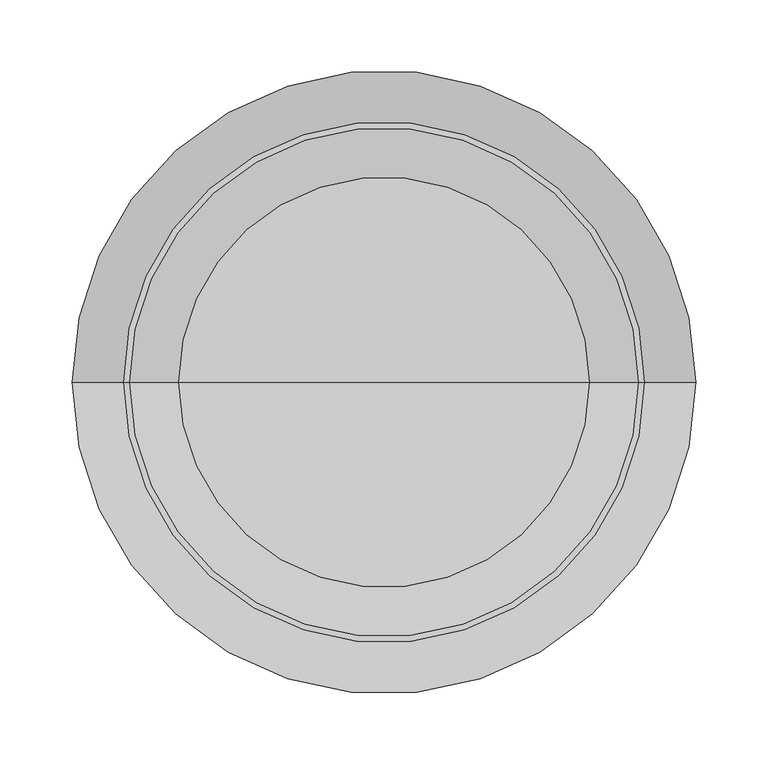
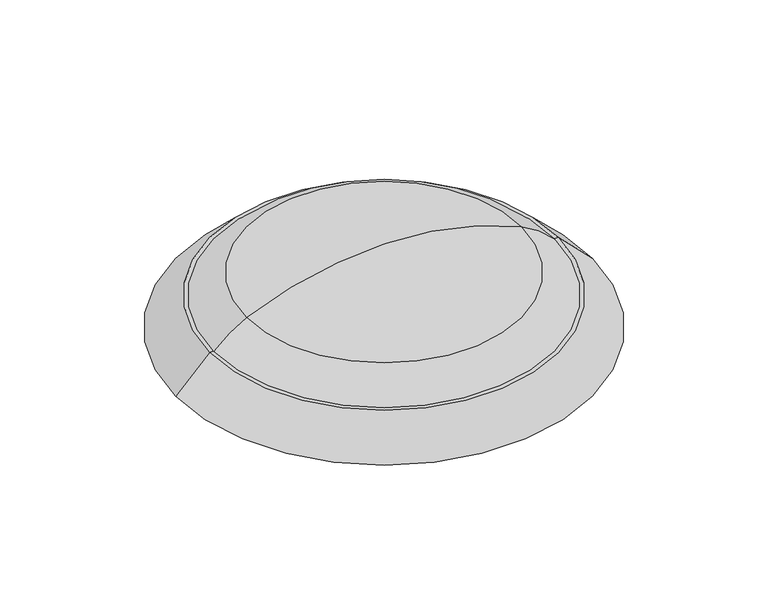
"""IFC4 building model written with IfcOpenShell, lengths in millimetres: light fixture geometry, AMED HALO : AMEDH128 HF."""

import ifcopenshell
import ifcopenshell.guid

model = None  # the IFC model being written
_history = None  # IfcOwnerHistory: only IFC2X3 demands one
_inside = {}  # id of a spatial element -> (the spatial element, [elements in it])
_under = {}  # id of a project, library or spatial element -> (it, [spatial elements below it])
_declared = {}  # id of a project -> (the project, [libraries it declares])
_typed = {}  # id of a type object -> (the type object, [elements of that type])
_made_of = {}  # id of a material, layer set ... -> (it, [elements and type objects made of it])


def new_model(schema):
    """Start an empty IFC model of exactly this schema.

    Asked for "IFC4X3", IfcOpenShell would pick the latest addendum, in which some entities
    have other attributes; the version numbers below select the first issue.
    IFC2X3 requires an IfcOwnerHistory on every rooted entity: one is made here for all.
    """
    global model, _history
    if schema == "IFC4X3":
        model = ifcopenshell.file(schema_version=(4, 3, 0, 0))
    else:
        model = ifcopenshell.file(schema=schema)
    _inside.clear()
    _under.clear()
    _declared.clear()
    _typed.clear()
    _made_of.clear()
    _history = None
    if model.schema == "IFC2X3":
        org = make("IfcOrganization", Name="unknown")
        user = make(
            "IfcPersonAndOrganization",
            ThePerson=make("IfcPerson", FamilyName="unknown"),
            TheOrganization=org,
        )
        app = make(
            "IfcApplication",
            ApplicationDeveloper=org,
            Version="unknown",
            ApplicationFullName="unknown",
            ApplicationIdentifier="unknown",
        )
        _history = make(
            "IfcOwnerHistory",
            OwningUser=user,
            OwningApplication=app,
            ChangeAction="ADDED",
            CreationDate=0,
        )
    return model


def make(cls, **values):
    """One entity of the class cls with the attributes given. An attribute that is None is left unset."""
    return model.create_entity(
        cls, **{name: value for name, value in values.items() if value is not None}
    )


def rooted(cls, **values):
    """An entity with a GlobalId (a new one), such as an element, a storey or a relation."""
    return make(cls, GlobalId=ifcopenshell.guid.new(), OwnerHistory=_history, **values)


def si_unit(unit_type, name, prefix=None):
    """IfcSIUnit, for example si_unit("LENGTHUNIT", "METRE", prefix="MILLI")."""
    return make("IfcSIUnit", UnitType=unit_type, Prefix=prefix, Name=name)


def assignment(units):
    """IfcUnitAssignment: the units of a project."""
    return None if units is None else make("IfcUnitAssignment", Units=units)


def point(xyz):
    """IfcCartesianPoint."""
    return None if xyz is None else make("IfcCartesianPoint", Coordinates=xyz)


def direction(xyz):
    """IfcDirection."""
    return None if xyz is None else make("IfcDirection", DirectionRatios=xyz)


def frame(location, z_axis=None, x_axis=None):
    """IfcAxis2Placement3D, a coordinate frame: its origin and axes. An axis left out is left unset."""
    return make(
        "IfcAxis2Placement3D",
        Location=point(location),
        Axis=direction(z_axis),
        RefDirection=direction(x_axis),
    )


def origin():
    """The frame at (0, 0, 0) with its axes left unset."""
    return frame((0.0, 0.0, 0.0))


def place(relative_to, where):
    """IfcLocalPlacement: puts the frame where relative to a parent placement (None: the world)."""
    return make(
        "IfcLocalPlacement", PlacementRelTo=relative_to, RelativePlacement=where
    )


def context(
    kind, dimensions, precision=None, world=None, true_north=None, identifier=None
):
    """IfcGeometricRepresentationContext, for example the 3D "Model" context."""
    return make(
        "IfcGeometricRepresentationContext",
        ContextIdentifier=identifier,
        ContextType=kind,
        CoordinateSpaceDimension=dimensions,
        Precision=precision,
        WorldCoordinateSystem=world,
        TrueNorth=true_north,
    )


def project(units=None, contexts=None):
    """IfcProject with its units and contexts."""
    return rooted(
        "IfcProject",
        Name="project",
        RepresentationContexts=contexts,
        UnitsInContext=assignment(units),
    )


def spatial(cls, under=None, at=None, **own):
    """A site, building, storey or space (cls), placed at a placement, below another one or the project."""
    s = rooted(cls, ObjectPlacement=at, **own)
    if under is not None:
        _under.setdefault(under.id(), (under, []))[1].append(s)
    return s


def polyline(points):
    """IfcPolyline through the points."""
    return make("IfcPolyline", Points=[point(p) for p in points])


def circle_curve(where, radius):
    """IfcCircle in the frame where."""
    return make("IfcCircle", Position=where, Radius=radius)


def ellipse_curve(where, semi_axis1, semi_axis2):
    """IfcEllipse in the frame where."""
    return make(
        "IfcEllipse", Position=where, SemiAxis1=semi_axis1, SemiAxis2=semi_axis2
    )


def trimmed(basis, trim1, trim2, sense, master):
    """IfcTrimmedCurve: the piece of a basis curve between two trims."""
    return make(
        "IfcTrimmedCurve",
        BasisCurve=basis,
        Trim1=trim1,
        Trim2=trim2,
        SenseAgreement=sense,
        MasterRepresentation=master,
    )


def shape(context_of_items, identifier, shape_type, items):
    """IfcShapeRepresentation: the items that make up one representation, for example the "Body"."""
    return make(
        "IfcShapeRepresentation",
        ContextOfItems=context_of_items,
        RepresentationIdentifier=identifier,
        RepresentationType=shape_type,
        Items=items,
    )


def source(mapping_origin, context_of_items, identifier, shape_type, items):
    """IfcRepresentationMap: a shape defined once, which mapped items show again and again."""
    return make(
        "IfcRepresentationMap",
        MappingOrigin=mapping_origin,
        MappedRepresentation=shape(context_of_items, identifier, shape_type, items),
    )


def transform(
    local_origin,
    x_axis=None,
    y_axis=None,
    z_axis=None,
    scale=None,
    scale2=None,
    scale3=None,
    uniform=True,
):
    """IfcCartesianTransformationOperator3D, or its non-uniform kind. x_axis, y_axis, z_axis: its Axis1, 2, 3."""
    if uniform:
        return make(
            "IfcCartesianTransformationOperator3D",
            Axis1=direction(x_axis),
            Axis2=direction(y_axis),
            LocalOrigin=point(local_origin),
            Scale=scale,
            Axis3=direction(z_axis),
        )
    return make(
        "IfcCartesianTransformationOperator3DnonUniform",
        Axis1=direction(x_axis),
        Axis2=direction(y_axis),
        LocalOrigin=point(local_origin),
        Scale=scale,
        Axis3=direction(z_axis),
        Scale2=scale2,
        Scale3=scale3,
    )


def mapped(mapping_source, mapping_target):
    """IfcMappedItem: shows the shape of a source again, moved by a transform."""
    return make(
        "IfcMappedItem", MappingSource=mapping_source, MappingTarget=mapping_target
    )


def made_of(thing, what):
    """Note that an element or type object is made of a material, layer set ...; save() writes the relation."""
    if what is not None:
        _made_of.setdefault(what.id(), (what, []))[1].append(thing)
    return thing


def element(
    cls,
    number,
    at=None,
    inside=None,
    cuts=None,
    type_object=None,
    material=None,
    context=None,
    identifier="Body",
    shape_type=None,
    held_by="IfcProductDefinitionShape",
    body=None,
    shapes=None,
    **own,
):
    """One element of the class cls, such as IfcWall. Its Tag is "e" and its number.

    at: its placement. inside: the storey or other place that contains it. cuts: it is an
    opening in that element (IfcRelVoidsElement). A single representation is given by context,
    identifier, shape_type and body (its items); several are given by shapes. held_by: the class
    of the entity that holds the representations. save() writes the other relations.
    """
    e = rooted(cls, Tag="e%d" % number, ObjectPlacement=at, **own)
    if body is not None:
        shapes = [shape(context, identifier, shape_type, body)]
    if shapes is not None:
        e.Representation = make(held_by, Representations=shapes)
    if inside is not None:
        _inside.setdefault(inside.id(), (inside, []))[1].append(e)
    if cuts is not None:
        rooted(
            "IfcRelVoidsElement", RelatingBuildingElement=cuts, RelatedOpeningElement=e
        )
    if type_object is not None:
        _typed.setdefault(type_object.id(), (type_object, []))[1].append(e)
    return made_of(e, material)


def aggregate(whole, parts):
    """IfcRelAggregates: a whole, such as a stair, and the parts it consists of."""
    return rooted("IfcRelAggregates", RelatingObject=whole, RelatedObjects=parts)


def save(model, path):
    """Write the relations noted so far, then the file.

    IfcRelAggregates (storeys below a building ...), IfcRelContainedInSpatialStructure (elements
    in a storey), IfcRelDefinesByType, IfcRelAssociatesMaterial and IfcRelDeclares: one each for
    every whole, place, type object, material and project.
    """
    for whole, parts in _under.values():
        aggregate(whole, parts)
    for where, things in _inside.values():
        rooted(
            "IfcRelContainedInSpatialStructure",
            RelatedElements=things,
            RelatingStructure=where,
        )
    for kind, things in _typed.values():
        rooted("IfcRelDefinesByType", RelatedObjects=things, RelatingType=kind)
    for what, things in _made_of.values():
        rooted("IfcRelAssociatesMaterial", RelatedObjects=things, RelatingMaterial=what)
    for by, libraries in _declared.values():
        rooted("IfcRelDeclares", RelatingContext=by, RelatedDefinitions=libraries)
    model.write(path)


def plane_surface(at):
    """IfcPlane: the flat surface through the origin of the frame at, square to its z axis."""
    return make("IfcPlane", Position=at)


def cylinder_surface(at, radius):
    """IfcCylindricalSurface: all points at the distance radius from the z axis of the frame at."""
    return make("IfcCylindricalSurface", Position=at, Radius=radius)


def revolved_surface(curve, axis_point, axis_direction):
    """IfcSurfaceOfRevolution: the curve turned about the line through axis_point along axis_direction."""
    return make(
        "IfcSurfaceOfRevolution",
        SweptCurve=make("IfcArbitraryOpenProfileDef", ProfileType="CURVE", Curve=curve),
        AxisPosition=make("IfcAxis1Placement", Location=point(axis_point), Axis=direction(axis_direction)),
    )


def advanced_brep(points, edges, surfaces, faces):
    """IfcAdvancedBrep: a solid bounded by faces that lie on surfaces and meet in shared edges.

    An edge is (start, end): straight between two places in points (the first is 0);
    or (start, end, curve); or (start, end, curve, False) where it runs against its curve.
    A face is (place in surfaces, loops), or (place, loops, False) where it looks against
    its surface's normal. A loop lists edges by number (the first is 1), with a minus sign
    where the edge is run from its end to its start. The first loop is the outer one.
    """
    corners = [point(p) for p in points]
    vertices = [make("IfcVertexPoint", VertexGeometry=c) for c in corners]
    made = []
    for start, end, *more in edges:
        made.append(
            make(
                "IfcEdgeCurve",
                EdgeStart=vertices[start],
                EdgeEnd=vertices[end],
                EdgeGeometry=more[0] if more else make("IfcPolyline", Points=[corners[start], corners[end]]),
                SameSense=more[1] if len(more) > 1 else True,
            )
        )
    hull = []
    for where, loops, *sense in faces:
        bounds = []
        for j, loop in enumerate(loops):
            ring = [make("IfcOrientedEdge", EdgeElement=made[abs(k) - 1], Orientation=k > 0) for k in loop]
            bounds.append(
                make(
                    "IfcFaceOuterBound" if j == 0 else "IfcFaceBound",
                    Bound=make("IfcEdgeLoop", EdgeList=ring),
                    Orientation=True,
                )
            )
        hull.append(make("IfcAdvancedFace", Bounds=bounds, FaceSurface=surfaces[where], SameSense=sense[0] if sense else True))
    return make("IfcAdvancedBrep", Outer=make("IfcClosedShell", CfsFaces=hull))


def light_fixture_790226d0(model_context):
    return source(origin(), model_context, "Body", "AdvancedBrep", [
        advanced_brep(
        [(141.5368493, 0.3997213, 91.1814102), (-141.5487673, 0.3997213, 91.2175869), (-0.0020229, 0.3997213, 122.0000013), (-0.009134, 0.3997213, 66.3553408), (-175.5104993, 0.3997213, 66.3777688), (175.4922314, 0.3997213, 66.3329127)],
        [
            (0, 1, circle_curve(frame((-0.005959, 0.3997213, 91.1994985), z_axis=(0.00012779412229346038, 0.0, 0.9999999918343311), x_axis=(-0.9999999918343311, 0.0, 0.00012779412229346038)), 141.5428095)),
            (1, 2, circle_curve(frame((-0.0455532, 0.3997213, -218.6281654), z_axis=(0.0, 1.0, 0.0), x_axis=(0.9999999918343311, 0.0, -0.00012779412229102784)), 340.6281694)),
            (2, 0, circle_curve(frame((-0.0455532, 0.3997213, -218.6281654), z_axis=(0.0, 1.0, 0.0), x_axis=(-0.9999999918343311, 0.0, 0.00012779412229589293)), 340.6281694)),
            (1, 0, circle_curve(frame((-0.005959, 0.3997213, 91.1994985), z_axis=(0.00012779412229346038, 0.0, 0.9999999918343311), x_axis=(-0.9999999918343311, 0.0, 0.00012779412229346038)), 141.5428095)),
            (3, 4),
            (4, 5, circle_curve(frame((-0.009134, 0.3997213, 66.3553408), z_axis=(-0.00012779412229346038, 0.0, -0.9999999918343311), x_axis=(-0.9999999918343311, 0.0, 0.00012779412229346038)), 175.5013668)),
            (5, 3),
            (5, 4, circle_curve(frame((-0.009134, 0.3997213, 66.3553408), z_axis=(-0.00012779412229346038, 0.0, -0.9999999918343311), x_axis=(-0.9999999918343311, 0.0, 0.00012779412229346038)), 175.5013668)),
            (4, 1, circle_curve(frame((-98.2185513, 0.3997213, -3.6614126), z_axis=(0.0, 1.0, 0.0), x_axis=(0.9999999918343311, 0.0, -0.00012779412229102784)), 104.3049959)),
            (0, 5, circle_curve(frame((98.1823847, 0.3997213, -3.6865115), z_axis=(0.0, 1.0, 0.0), x_axis=(-0.9999999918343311, 0.0, 0.00012779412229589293)), 104.3049959)),
        ],
        [
            revolved_surface(trimmed(ellipse_curve(frame((-0.0455532, 0.3997213, -218.6281654), z_axis=(0.0, -1.0, 0.0), x_axis=(0.9999999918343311, 0.0, -0.00012779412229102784)), 340.6281694, 340.6281694), [point((-0.0020229, 0.3997213, 122.0000013))], [point((-141.5487673, 0.3997213, 91.2175869))], True, "CARTESIAN"), (-0.0020229, 0.3997213, 122.0000013), (-0.00012779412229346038, 0.0, -0.9999999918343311)),
            plane_surface(frame((-0.009134, 0.3997213, 66.3553408), z_axis=(-0.00012779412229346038, 0.0, -0.9999999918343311), x_axis=(-0.9999999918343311, 0.0, 0.00012779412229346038))),
            revolved_surface(trimmed(ellipse_curve(frame((-98.2185513, 0.3997213, -3.6614126), z_axis=(0.0, -1.0, 0.0), x_axis=(0.9999999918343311, 0.0, -0.00012779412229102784)), 104.3049959, 104.3049959), [point((-141.5487673, 0.3997213, 91.2175869))], [point((-175.5104993, 0.3997213, 66.3777688))], True, "CARTESIAN"), (-0.0020229, 0.3997213, 122.0000013), (-0.00012779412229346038, 0.0, -0.9999999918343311)),
        ],
        [
            (0, [[1, 2, 3]]),
            (0, [[4, -3, -2]]),
            (1, [[5, 6, 7]]),
            (1, [[-7, 8, -5]]),
            (2, [[-6, 9, -1, 10]]),
            (2, [[-8, -10, -4, -9]]),
        ],
    ),
        advanced_brep(
        [(-0.0136522, 0.3997213, 31.000002), (-215.0136504, 0.3997213, 31.0274777), (214.9863461, 0.3997213, 30.9725263), (179.6355255, 0.3997213, 66.3323832), (-179.6537934, 0.3997213, 66.3782983), (-0.009134, 0.3997213, 66.3553408)],
        [
            (0, 1),
            (1, 2, circle_curve(frame((-0.0136522, 0.3997213, 31.000002), z_axis=(-0.00012779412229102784, 0.0, -0.9999999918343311), x_axis=(-0.9999999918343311, 0.0, 0.00012779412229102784)), 215.0)),
            (2, 0),
            (2, 1, circle_curve(frame((-0.0136522, 0.3997213, 31.000002), z_axis=(-0.00012779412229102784, 0.0, -0.9999999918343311), x_axis=(-0.9999999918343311, 0.0, 0.00012779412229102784)), 215.0)),
            (3, 4, circle_curve(frame((-0.009134, 0.3997213, 66.3553408), z_axis=(0.00012779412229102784, 0.0, 0.9999999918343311), x_axis=(-0.9999999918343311, 0.0, 0.00012779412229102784)), 179.6446609)),
            (4, 5),
            (5, 3),
            (4, 3, circle_curve(frame((-0.009134, 0.3997213, 66.3553408), z_axis=(0.00012779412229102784, 0.0, 0.9999999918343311), x_axis=(-0.9999999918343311, 0.0, 0.00012779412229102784)), 179.6446609)),
            (1, 4),
            (3, 2),
        ],
        [
            plane_surface(frame((-0.0136522, 0.3997213, 31.000002), z_axis=(-0.00012779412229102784, 0.0, -0.9999999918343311), x_axis=(-0.9999999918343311, 0.0, 0.00012779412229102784))),
            plane_surface(frame((-0.009134, 0.3997213, 66.3553408), z_axis=(0.00012779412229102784, 0.0, 0.9999999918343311), x_axis=(-0.9999999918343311, 0.0, 0.00012779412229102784))),
            revolved_surface(polyline([(-179.6537934, 0.3997213, 66.3782983), (-215.0136504, 0.3997213, 31.0274777)]), (-0.009134, 0.3997213, 66.3553408), (-0.00012779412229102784, 0.0, -0.9999999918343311)),
        ],
        [
            (0, [[1, 2, 3]]),
            (0, [[-3, 4, -1]]),
            (1, [[5, 6, 7]]),
            (1, [[8, -7, -6]]),
            (2, [[-2, 9, -5, 10]]),
            (2, [[-4, -10, -8, -9]]),
        ],
    ),
        advanced_brep(
        [(-0.8179672, 0.3997213, 0.0001045), (-162.8179659, 0.3997213, 0.0208072), (161.1820314, 0.3997213, -0.0205981), (161.1859931, 0.3997213, 30.9794016), (-162.8140043, 0.3997213, 31.0208069), (-0.8140056, 0.3997213, 31.0001043)],
        [
            (0, 1),
            (1, 2, circle_curve(frame((-0.8179672, 0.3997213, 0.0001045), z_axis=(-0.00012779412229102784, 0.0, -0.9999999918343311), x_axis=(-0.9999999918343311, 0.0, 0.00012779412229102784)), 162.0)),
            (2, 0),
            (2, 1, circle_curve(frame((-0.8179672, 0.3997213, 0.0001045), z_axis=(-0.00012779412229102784, 0.0, -0.9999999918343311), x_axis=(-0.9999999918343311, 0.0, 0.00012779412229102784)), 162.0)),
            (3, 4, circle_curve(frame((-0.8140056, 0.3997213, 31.0001043), z_axis=(0.00012779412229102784, 0.0, 0.9999999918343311), x_axis=(-0.9999999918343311, 0.0, 0.00012779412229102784)), 162.0)),
            (4, 5),
            (5, 3),
            (4, 3, circle_curve(frame((-0.8140056, 0.3997213, 31.0001043), z_axis=(0.00012779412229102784, 0.0, 0.9999999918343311), x_axis=(-0.9999999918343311, 0.0, 0.00012779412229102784)), 162.0)),
            (1, 4),
            (3, 2),
        ],
        [
            plane_surface(frame((-0.8179672, 0.3997213, 0.0001045), z_axis=(-0.00012779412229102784, 0.0, -0.9999999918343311), x_axis=(-0.9999999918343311, 0.0, 0.00012779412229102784))),
            plane_surface(frame((-0.8140056, 0.3997213, 31.0001043), z_axis=(0.00012779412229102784, 0.0, 0.9999999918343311), x_axis=(-0.9999999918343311, 0.0, 0.00012779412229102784))),
            cylinder_surface(frame((-0.8140056, 0.3997213, 31.0001043), z_axis=(-0.00012779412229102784, 0.0, -0.9999999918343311), x_axis=(-0.9999999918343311, 0.0, 0.00012779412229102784)), 162.0),
        ],
        [
            (0, [[1, 2, 3]]),
            (0, [[-3, 4, -1]]),
            (1, [[5, 6, 7]]),
            (1, [[8, -7, -6]]),
            (2, [[-2, 9, -5, 10]]),
            (2, [[-4, -10, -8, -9]]),
        ],
    ),
    ])


if __name__ == "__main__":
    model = new_model("IFC4")
    model_context = context("Model", 3, world=origin())
    ifc_project = project(units=[si_unit("LENGTHUNIT", "METRE", prefix="MILLI")], contexts=[model_context])
    site = spatial("IfcSite", under=ifc_project)
    building = spatial("IfcBuilding", under=site)
    placement = place(None, origin())
    light_fixture_shape = light_fixture_790226d0(model_context)
    element("IfcLightFixture", 1, ObjectType="AMED HALO : AMEDH128 HF", at=placement, inside=building, context=model_context, shape_type="MappedRepresentation", body=[
        mapped(light_fixture_shape, transform((0.0, 0.0, 0.0), x_axis=(1.0, 0.0, 0.0), y_axis=(0.0, 1.0, 0.0), z_axis=(0.0, 0.0, 1.0))),
    ])
    save(model, "model.ifc")
